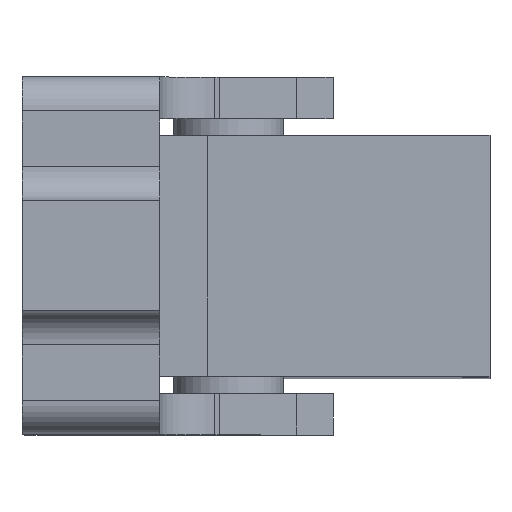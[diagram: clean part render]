
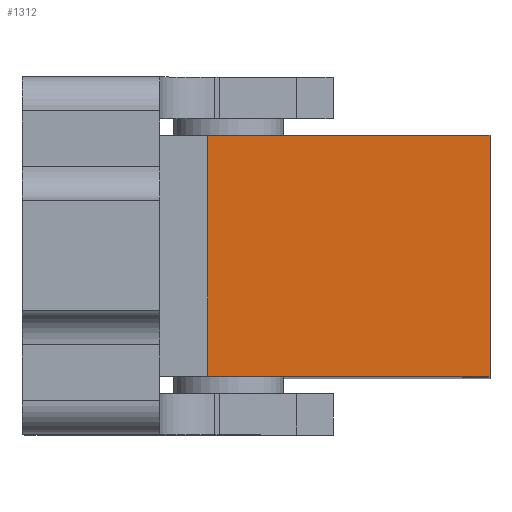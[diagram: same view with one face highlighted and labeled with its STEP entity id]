
A CAD part, top view. The second image highlights one B-rep face of the part: STEP entity #1312.
In plain terms, the highlighted planar face has unit normal (0, 0, 1).
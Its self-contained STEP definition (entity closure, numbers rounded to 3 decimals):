
#1260=CARTESIAN_POINT('Vertex',(-3.,-17.5,32.5)) ;
#1263=CARTESIAN_POINT('Line Origine',(-3.,0.,32.5)) ;
#1267=CARTESIAN_POINT('Vertex',(-3.,17.5,32.5)) ;
#1282=CARTESIAN_POINT('Axis2P3D Location',(0.,0.,32.5)) ;
#1287=CARTESIAN_POINT('Line Origine',(17.5,-17.5,32.5)) ;
#1291=CARTESIAN_POINT('Vertex',(38.,-17.5,32.5)) ;
#1294=CARTESIAN_POINT('Line Origine',(38.,0.,32.5)) ;
#1298=CARTESIAN_POINT('Vertex',(38.,17.5,32.5)) ;
#1301=CARTESIAN_POINT('Line Origine',(17.5,17.5,32.5)) ;
#1264=DIRECTION('Vector Direction',(0.,1.,0.)) ;
#1283=DIRECTION('Axis2P3D Direction',(0.,0.,1.)) ;
#1284=DIRECTION('Axis2P3D XDirection',(1.,0.,0.)) ;
#1288=DIRECTION('Vector Direction',(-1.,0.,0.)) ;
#1295=DIRECTION('Vector Direction',(0.,1.,0.)) ;
#1302=DIRECTION('Vector Direction',(1.,0.,0.)) ;
#1285=AXIS2_PLACEMENT_3D('Plane Axis2P3D',#1282,#1283,#1284) ;
#1307=ORIENTED_EDGE('',*,*,#1293,.T.) ;
#1308=ORIENTED_EDGE('',*,*,#1300,.T.) ;
#1309=ORIENTED_EDGE('',*,*,#1305,.T.) ;
#1310=ORIENTED_EDGE('',*,*,#1269,.F.) ;
#1265=VECTOR('Line Direction',#1264,1.) ;
#1289=VECTOR('Line Direction',#1288,1.) ;
#1296=VECTOR('Line Direction',#1295,1.) ;
#1303=VECTOR('Line Direction',#1302,1.) ;
#1312=ADVANCED_FACE('',(#1311),#1286,.T.) ;
#1269=EDGE_CURVE('',#1261,#1268,#1266,.T.) ;
#1293=EDGE_CURVE('',#1261,#1292,#1290,.F.) ;
#1300=EDGE_CURVE('',#1292,#1299,#1297,.T.) ;
#1305=EDGE_CURVE('',#1299,#1268,#1304,.F.) ;
#1306=EDGE_LOOP('',(#1307,#1308,#1309,#1310)) ;
#1311=FACE_OUTER_BOUND('',#1306,.T.) ;
#1266=LINE('Line',#1263,#1265) ;
#1290=LINE('Line',#1287,#1289) ;
#1297=LINE('Line',#1294,#1296) ;
#1304=LINE('Line',#1301,#1303) ;
#1286=PLANE('Plane',#1285) ;
#1261=VERTEX_POINT('',#1260) ;
#1268=VERTEX_POINT('',#1267) ;
#1292=VERTEX_POINT('',#1291) ;
#1299=VERTEX_POINT('',#1298) ;
